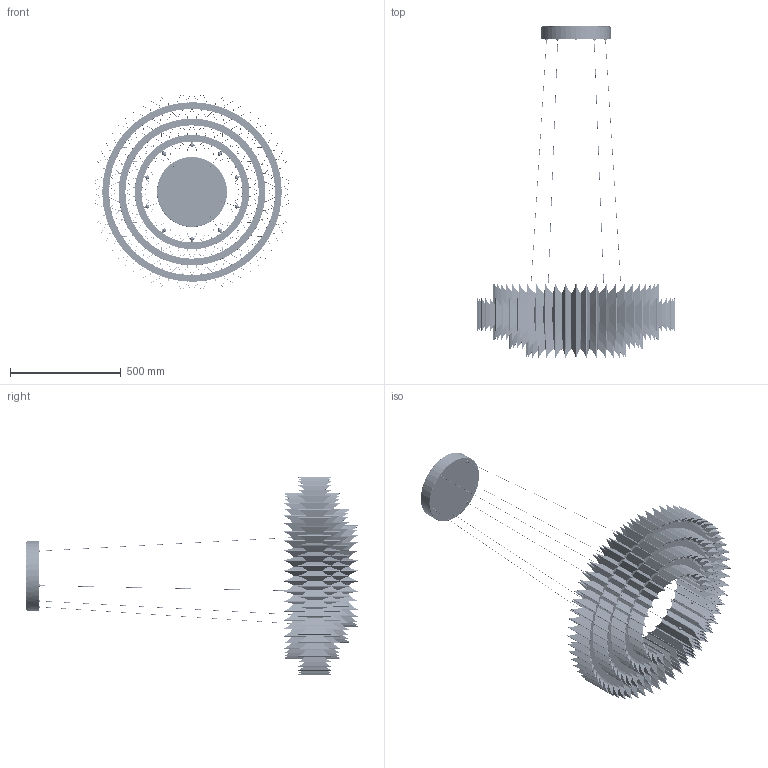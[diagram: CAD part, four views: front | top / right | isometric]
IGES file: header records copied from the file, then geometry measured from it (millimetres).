
Global section: file name: KING-SMALL; native system: Autodesk Inventor 2023; preprocessor: unknown; author: JM; date: 20240502.143122; units: millimetre
Bounding box: 899 x 1500 x 899 mm (x, y, z)
Volume: 4126179.1 mm3; surface area: 7225730.4 mm2
Topology: 265 solids, 265 shells, 11976 faces, 33947 edges, 22598 vertices
Faces by surface type: bspline 11976
